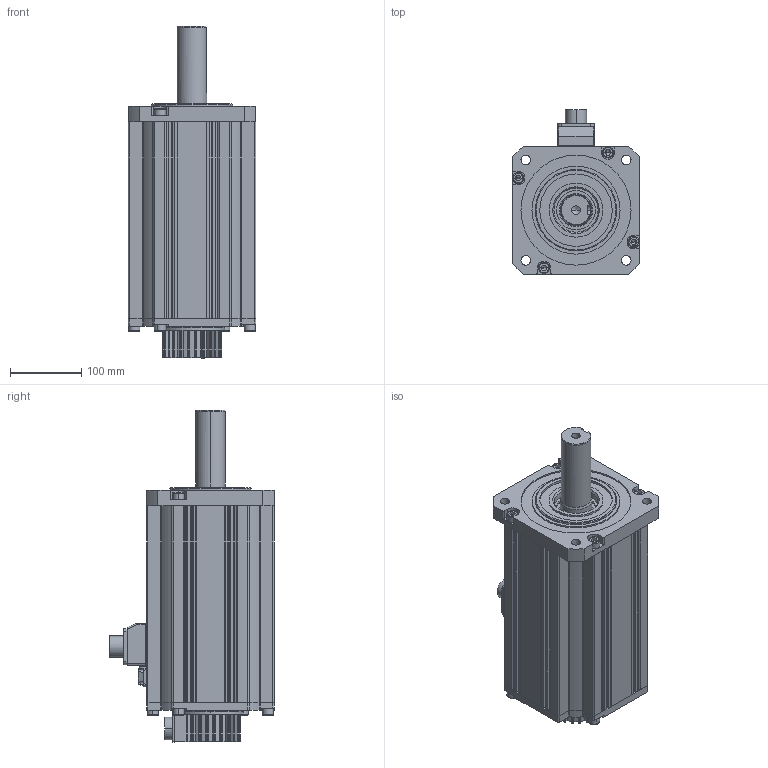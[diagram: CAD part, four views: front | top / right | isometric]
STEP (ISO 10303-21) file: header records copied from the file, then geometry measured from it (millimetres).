
FILE_DESCRIPTION (( 'STEP AP203' ), '1' );
FILE_NAME ('R180-7.5KW.STEP', '2018-11-27T01:01:48', ( 'redxblue' ), ( 'redxblue' ), 'SwSTEP 2.0', 'SolidWorks 2012', '' );
FILE_SCHEMA (( 'CONFIG_CONTROL_DESIGN' ));
Length unit declared in the file: millimetre
Products named in the file (22): 晤鎢ん瑤脣; R180-7.5KW; 雄薯盄躇猾菜-001111; 雄薯盄揤裔-001; hexagon socket head cap screws gb1111_GB_FASTENER_SCREWS_HSHCS M10X30-N; 130-綴裔; 綴裔躇猾菜; 侜督萇儂窒璃; 蛌赽軞傖; hexagon socket head cap screws gb1111_GB_FASTENER_SCREWS_HSHCS M4X10-N; hexagon socket head cap screws gb1111_GB_FASTENER_SCREWS_HSHCS M3X10-S; 綴傷裔-002; deep groove ball bearings gb_Rolling bearings 6209 GB 276-94; deep groove ball bearings gb_Rolling bearings 6206 GB 276-94; 蛌赽郪璃; 180-粣; 180-ヶ傷裔; 隅赽軞傖; 萇埭盄瑤脣; 180-瑤脣; 瑤脣釱躇猾菜; 180-儂褲
Assembly tree (28 placements, depth 5):
  R180-7.5KW
    侜督萇儂窒璃
      隅赽軞傖
        180-儂褲
        瑤脣釱躇猾菜
        180-瑤脣
        萇埭盄瑤脣
      180-ヶ傷裔
      蛌赽軞傖
        蛌赽郪璃
          180-粣
        deep groove ball bearings gb_Rolling bearings 6206 GB 276-94
        deep groove ball bearings gb_Rolling bearings 6209 GB 276-94
        綴傷裔-002
        hexagon socket head cap screws gb1111_GB_FASTENER_SCREWS_HSHCS M3X10-S
        hexagon socket head cap screws gb1111_GB_FASTENER_SCREWS_HSHCS M4X10-N
    晤鎢ん瑤脣
    綴裔躇猾菜
    130-綴裔
    hexagon socket head cap screws gb1111_GB_FASTENER_SCREWS_HSHCS M10X30-N  x8
    雄薯盄揤裔-001
    雄薯盄躇猾菜-001111
Bounding box: 180 x 232 x 467.5 mm (x, y, z)
Volume: 2349425.6 mm3; surface area: 787156.2 mm2
Topology: 25 solids, 25 shells, 2058 faces, 5706 edges, 3619 vertices
Faces by surface type: cylinder 908, plane 626, cone 206, torus 164, sphere 154
Entity records: 65722 total; most frequent: CARTESIAN_POINT 15306, DIRECTION 10424, ORIENTED_EDGE 9972, EDGE_CURVE 4986, AXIS2_PLACEMENT_3D 4168, VERTEX_POINT 3194, CIRCLE 2250, EDGE_LOOP 2158
